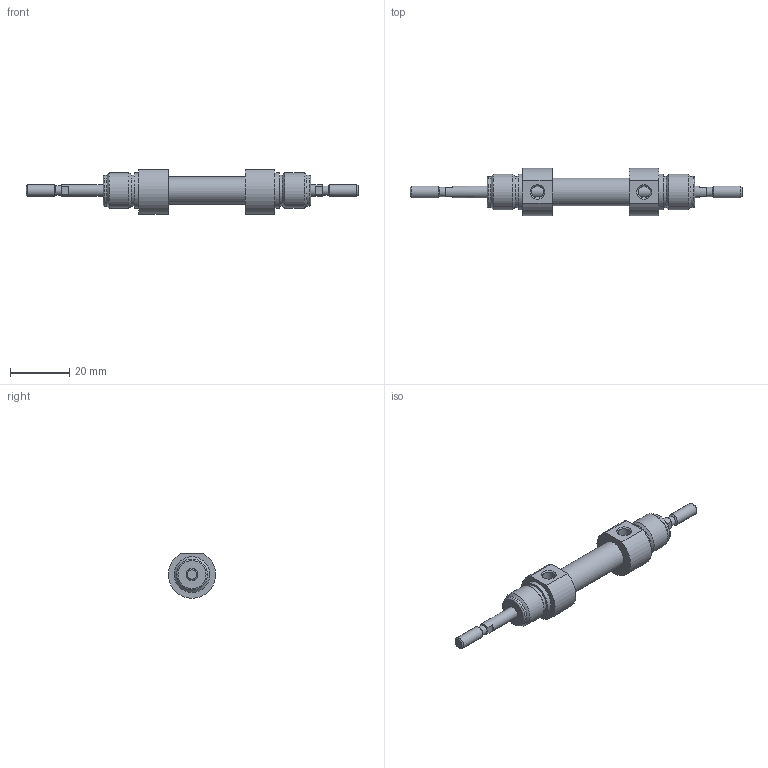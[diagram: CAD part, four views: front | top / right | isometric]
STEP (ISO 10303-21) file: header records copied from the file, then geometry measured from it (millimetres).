
FILE_DESCRIPTION(/* description */ (''),/* implementation_level */ '2;1');
FILE_NAME(/* name */ '\\UNIVER\Disegni in Archivio 2\CATALOGO STEP_Sito\MODELLI CILINDRI M\3D STEP\M101_M201\dia. 8\M101-08-0000.stp',/* time_stamp */ '2014-02-04T09:59:03+01:00',/* author */ ('Boceda'),/* organization */ (''),/* preprocessor_version */ 'ST-DEVELOPER v15.2',/* originating_system */ 'Autodesk Inventor 2014',/* authorisation */ '');
FILE_SCHEMA (('AUTOMOTIVE_DESIGN { 1 0 10303 214 3 1 1 }'));
Length unit declared in the file: centimetre
Products named in the file (1): M101-08-0000
Bounding box: 112 x 15.98 x 14.97 mm (x, y, z)
Volume: 8577.3 mm3; surface area: 3970.1 mm2
Topology: 1 solids, 1 shells, 65 faces, 134 edges, 81 vertices
Faces by surface type: plane 28, cylinder 21, cone 14, torus 2
Full cylindrical faces by diameter (mm): 3.141 x2, 4 x4, 4.134 x2, 9.3 x1, 10.466 x4, 12 x4
Entity records: 1609 total; most frequent: CARTESIAN_POINT 344, DIRECTION 280, ORIENTED_EDGE 196, AXIS2_PLACEMENT_3D 124, EDGE_LOOP 104, EDGE_CURVE 98, VERTEX_POINT 74, FACE_OUTER_BOUND 65
